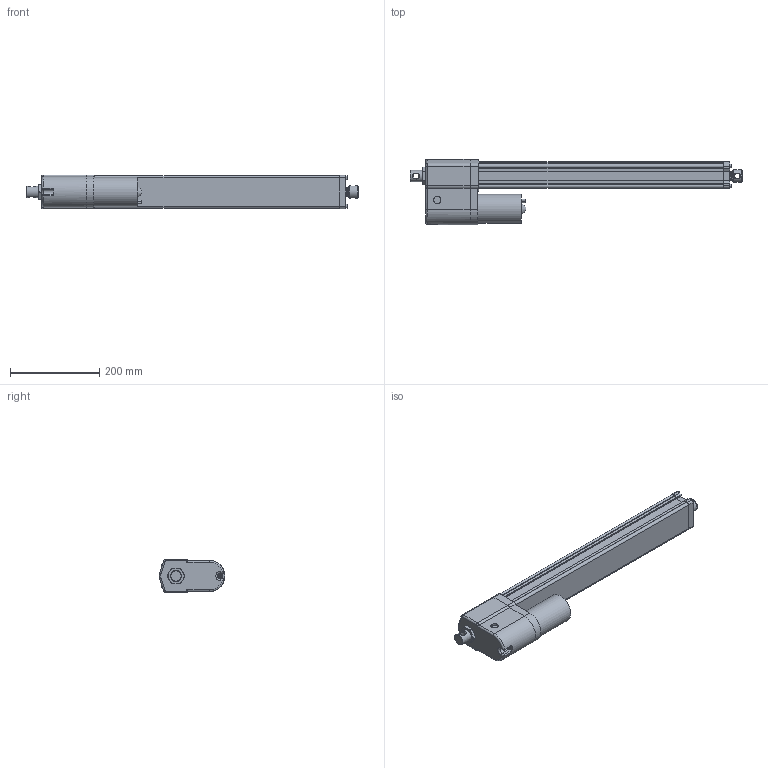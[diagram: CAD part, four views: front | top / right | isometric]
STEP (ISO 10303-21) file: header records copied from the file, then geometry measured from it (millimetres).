
FILE_DESCRIPTION( ( 'STEP AP203' ), '1' );
FILE_NAME( 'p:/temp/worker_511/temp/exporttempdir_4304_1323_qo4Xu/format_0/DA12-05A65M45M0NPO-AMM.stp', '2020-04-12T18:19:25', ( 'License CC BY-ND 4.0' ), ( 'CADENAS' ), ' ', 'PARTsolutions', ' ' );
FILE_SCHEMA( ( 'CONFIG_CONTROL_DESIGN' ) );
Length unit declared in the file: millimetre
Products named in the file (8): DA12-05A65M45M0NPO-AMM; _ELECTRAK-LA14-DA12-05A65MM0NPO-45M-EU-REAR; _Electrak-10-EU-RA-D602700; _D602768eu; _ELECTRAK-LA14-DA12--MOTOR; _DA12-05A65M45M0NPOAMMtube; _ELECTRAK-LA14-DA12--45-PLATE; _ELECTRAK-LA14-DA12--4505A65MNPOM-ROD
Assembly tree (7 placements, depth 2):
  DA12-05A65M45M0NPO-AMM
    _ELECTRAK-LA14-DA12-05A65MM0NPO-45M-EU-REAR
    _Electrak-10-EU-RA-D602700
    _D602768eu
    _ELECTRAK-LA14-DA12--MOTOR
    _DA12-05A65M45M0NPOAMMtube
    _ELECTRAK-LA14-DA12--45-PLATE
    _ELECTRAK-LA14-DA12--4505A65MNPOM-ROD
Bounding box: 746.05 x 148 x 76.2 mm (x, y, z)
Volume: 2471974.1 mm3; surface area: 554889.4 mm2
Topology: 7 solids, 8 shells, 378 faces, 942 edges, 611 vertices
Faces by surface type: plane 184, cylinder 131, cone 45, torus 14, bspline 4
Full cylindrical faces by diameter (mm): 4 x2, 4.126 x1, 4.8 x5, 5 x5, 5.6 x4, 7.878 x4, 9.398 x1, 12.2 x2, 16 x1, 16.5 x1, 21.8 x1, 25.2 x1, 25.4 x1, 26.24 x1, 28.5 x1, 28.6 x2, 47.625 x1, 65.3 x1
Entity records: 11834 total; most frequent: CARTESIAN_POINT 2729, DIRECTION 1869, ORIENTED_EDGE 1744, EDGE_CURVE 872, AXIS2_PLACEMENT_3D 702, VERTEX_POINT 602, EDGE_LOOP 485, LINE 465
